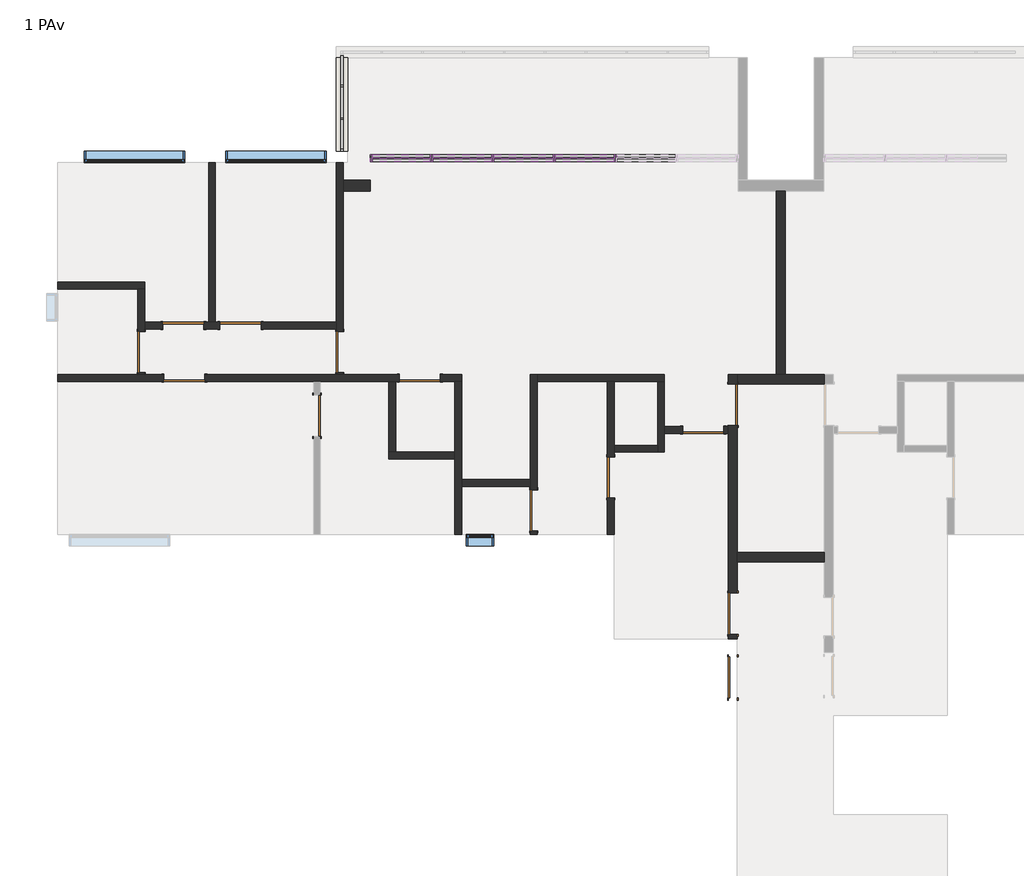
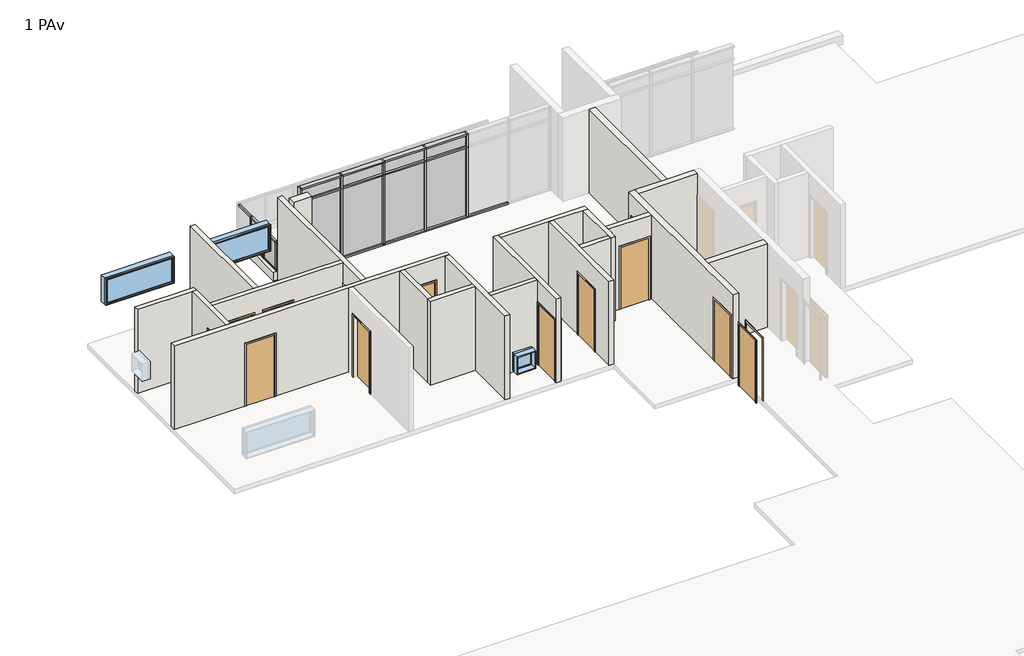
# One storey, part 4 of 6: 31 members, 22 walls, 13 doors, 10 plates, 3 windows.
"""IFC4 building model written with IfcOpenShell, lengths in millimetres."""

from ifc_helpers import new_model, si_unit, frame, origin, place, context, project, spatial, polyline, outline, extrude, faceted_brep, transform, mapped, element, save
from components import door_90_x_210_ee935524, door_90_x_210_565370b3, door_90_x_210_2c83007d, door_90_x_210_fbafd55c, montante_retangular_50_mm_quadrado_84e40a56, montante_retangular_50_mm_quadrado_3d152aff, montante_retangular_50_mm_quadrado_a01005a4, montante_retangular_50_mm_quadrado_ddd80bd7, montante_retangular_50_x_150_mm_6217edde, montante_retangular_50_x_150_mm_a22249d7, montante_retangular_50_x_150_mm_6225e4e3, montante_retangular_50_x_150_mm_0a8c3443, montante_retangular_50_x_150_mm_567eccab, montante_retangular_50_x_150_mm_1ca2bba2, montante_retangular_50_x_150_mm_6abf4531, montante_retangular_50_x_150_mm_662c37b1, painel_do_sistema_0196877a, painel_do_sistema_2aa81470, painel_do_sistema_1ecb5f42, painel_do_sistema_49db1829, painel_do_sistema_5ea5287b, painel_do_sistema_7730abee, window_0610_x_0610_mm_b5667cc9, window_220_x_90_84e01c73

model = new_model("IFC4")

# Units and contexts
model_context = context("Model", 3, world=origin())
ifc_project = project(units=[si_unit("LENGTHUNIT", "METRE", prefix="MILLI")], contexts=[model_context])

# Site, building, storey
site = spatial("IfcSite", under=ifc_project)
building = spatial("IfcBuilding", under=site)
storey = spatial("IfcBuildingStorey", under=building, Name="1 PAv", Elevation=3000.0)

# Doors
placement = place(None, origin())
door_90_x_210_shape = door_90_x_210_ee935524(model_context)
element("IfcDoor", 1, ObjectType="M_Descarga simples : 90 x 210", at=placement, inside=storey, context=model_context, shape_type="MappedRepresentation", body=[
    mapped(door_90_x_210_shape, transform((-14116.2265742, 10408.6614625, 3000.0), x_axis=(1.0, 0.0, 0.0), y_axis=(0.0, 1.0, 0.0), z_axis=(0.0, 0.0, 1.0))),
])
element("IfcDoor", 2, ObjectType="M_Descarga simples : 90 x 210", at=placement, inside=storey, context=model_context, shape_type="MappedRepresentation", body=[
    mapped(door_90_x_210_shape, transform((-14096.2265742, 9258.6614625, 3000.0), x_axis=(-1.0, 0.0, 0.0), y_axis=(0.0, -1.0, 0.0), z_axis=(0.0, 0.0, 1.0))),
])
element("IfcDoor", 3, ObjectType="M_Descarga simples : 90 x 210", at=placement, inside=storey, context=model_context, shape_type="MappedRepresentation", body=[
    mapped(door_90_x_210_shape, transform((-8936.2265742, 9258.6614625, 3000.0), x_axis=(-1.0, 0.0, 0.0), y_axis=(0.0, -1.0, 0.0), z_axis=(0.0, 0.0, 1.0))),
])
door_90_x_210_2_shape = door_90_x_210_565370b3(model_context)
element("IfcDoor", 4, ObjectType="M_Descarga simples : 90 x 210", at=placement, inside=storey, context=model_context, shape_type="MappedRepresentation", body=[
    mapped(door_90_x_210_2_shape, transform((-2726.2265742, 8118.6614625, 3000.0), x_axis=(1.0, 0.0, 0.0), y_axis=(0.0, 1.0, 0.0), z_axis=(0.0, 0.0, 1.0))),
])
element("IfcDoor", 5, ObjectType="M_Descarga simples : 90 x 210", at=placement, inside=storey, context=model_context, shape_type="MappedRepresentation", body=[
    mapped(door_90_x_210_2_shape, transform((-4751.2265742, 7083.6614625, 3000.0), x_axis=(0.0, -1.0, 0.0), y_axis=(1.0, 0.0, 0.0), z_axis=(0.0, 0.0, 1.0))),
])
element("IfcDoor", 6, ObjectType="M_Descarga simples : 90 x 210", at=placement, inside=storey, context=model_context, shape_type="MappedRepresentation", body=[
    mapped(door_90_x_210_2_shape, transform((-6441.2265742, 6358.6614625, 3000.0), x_axis=(0.0, -1.0, 0.0), y_axis=(1.0, 0.0, 0.0), z_axis=(0.0, 0.0, 1.0))),
])
element("IfcDoor", 7, ObjectType="M_Descarga simples : 90 x 210", at=placement, inside=storey, context=model_context, shape_type="MappedRepresentation", body=[
    mapped(door_90_x_210_2_shape, transform((-11191.2265742, 8433.6614625, 3000.0), x_axis=(0.0, 1.0, 0.0), y_axis=(-1.0, 0.0, 0.0), z_axis=(0.0, 0.0, 1.0))),
])
element("IfcDoor", 8, ObjectType="M_Descarga simples : 90 x 210", at=placement, inside=storey, context=model_context, shape_type="MappedRepresentation", body=[
    mapped(door_90_x_210_2_shape, transform((-10691.2265742, 9833.6614625, 3000.0), x_axis=(0.0, -1.0, 0.0), y_axis=(1.0, 0.0, 0.0), z_axis=(0.0, 0.0, 1.0))),
])
element("IfcDoor", 9, ObjectType="M_Descarga simples : 90 x 210", at=placement, inside=storey, context=model_context, shape_type="MappedRepresentation", body=[
    mapped(door_90_x_210_2_shape, transform((-15041.2265742, 9833.6614625, 3000.0), x_axis=(0.0, -1.0, 0.0), y_axis=(1.0, 0.0, 0.0), z_axis=(0.0, 0.0, 1.0))),
])
element("IfcDoor", 10, ObjectType="M_Descarga simples : 90 x 210", at=placement, inside=storey, context=model_context, shape_type="MappedRepresentation", body=[
    mapped(door_90_x_210_2_shape, transform((-12866.2265742, 10408.6614625, 3000.0), x_axis=(-1.0, 0.0, 0.0), y_axis=(0.0, -1.0, 0.0), z_axis=(0.0, 0.0, 1.0))),
])
door_90_x_210_3_shape = door_90_x_210_2c83007d(model_context)
element("IfcDoor", 11, ObjectType="M_Descarga simples : 90 x 210", at=placement, inside=storey, context=model_context, shape_type="MappedRepresentation", body=[
    mapped(door_90_x_210_3_shape, transform((-2076.2265742, 2693.6614625, 3000.0), x_axis=(0.0, 1.0, 0.0), y_axis=(-1.0, 0.0, 0.0), z_axis=(0.0, 0.0, 1.0))),
])
door_90_x_210_4_shape = door_90_x_210_fbafd55c(model_context)
element("IfcDoor", 12, ObjectType="M_Descarga simples : 90 x 210", at=placement, inside=storey, context=model_context, shape_type="MappedRepresentation", body=[
    mapped(door_90_x_210_4_shape, transform((-2076.2265742, 4093.6614625, 3000.0), x_axis=(0.0, -1.0, 0.0), y_axis=(1.0, 0.0, 0.0), z_axis=(0.0, 0.0, 1.0))),
])
element("IfcDoor", 13, ObjectType="M_Descarga simples : 90 x 210", at=placement, inside=storey, context=model_context, shape_type="MappedRepresentation", body=[
    mapped(door_90_x_210_4_shape, transform((-2076.2265742, 8673.2521762, 3000.0), x_axis=(0.0, 1.0, 0.0), y_axis=(-1.0, 0.0, 0.0), z_axis=(0.0, 0.0, 1.0))),
])

# Members
montante_retangular_50_mm_quadrado_shape = montante_retangular_50_mm_quadrado_84e40a56(model_context)
element("IfcMember", 14, ObjectType="Montante retangular : 50 mm Quadrado", at=placement, inside=storey, context=model_context, shape_type="MappedRepresentation", body=[
    mapped(montante_retangular_50_mm_quadrado_shape, transform((-10641.2265742, 15663.6614625, 3150.0), x_axis=(0.0, -1.0, 0.0), y_axis=(-1.0, 0.0, 0.0), z_axis=(0.0, 0.0, -1.0))),
])
element("IfcMember", 15, ObjectType="Montante retangular : 50 mm Quadrado", at=placement, inside=storey, context=model_context, shape_type="MappedRepresentation", body=[
    mapped(montante_retangular_50_mm_quadrado_shape, transform((-10641.2265742, 14948.6614625, 3150.0), x_axis=(0.0, -1.0, 0.0), y_axis=(-1.0, 0.0, 0.0), z_axis=(0.0, 0.0, -1.0))),
])
montante_retangular_50_mm_quadrado_2_shape = montante_retangular_50_mm_quadrado_3d152aff(model_context)
element("IfcMember", 16, ObjectType="Montante retangular : 50 mm Quadrado", at=placement, inside=storey, context=model_context, shape_type="MappedRepresentation", body=[
    mapped(montante_retangular_50_mm_quadrado_2_shape, transform((-10641.2265742, 14233.6614625, 3150.0), x_axis=(0.0, -1.0, 0.0), y_axis=(-1.0, 0.0, 0.0), z_axis=(0.0, 0.0, -1.0))),
])
montante_retangular_50_mm_quadrado_3_shape = montante_retangular_50_mm_quadrado_a01005a4(model_context)
element("IfcMember", 17, ObjectType="Montante retangular : 50 mm Quadrado", at=placement, inside=storey, context=model_context, shape_type="MappedRepresentation", body=[
    mapped(montante_retangular_50_mm_quadrado_3_shape, transform((-10641.2265742, 14283.6614625, 4150.0), x_axis=(0.0, 0.0, 1.0), y_axis=(-1.0, 0.0, 0.0), z_axis=(0.0, -1.0, 0.0))),
])
element("IfcMember", 18, ObjectType="Montante retangular : 50 mm Quadrado", at=placement, inside=storey, context=model_context, shape_type="MappedRepresentation", body=[
    mapped(montante_retangular_50_mm_quadrado_3_shape, transform((-10641.2265742, 15688.6614625, 4150.0), x_axis=(0.0, 0.0, 1.0), y_axis=(-1.0, 0.0, 0.0), z_axis=(0.0, -1.0, 0.0))),
])
montante_retangular_50_mm_quadrado_4_shape = montante_retangular_50_mm_quadrado_ddd80bd7(model_context)
element("IfcMember", 19, ObjectType="Montante retangular : 50 mm Quadrado", at=placement, inside=storey, context=model_context, shape_type="MappedRepresentation", body=[
    mapped(montante_retangular_50_mm_quadrado_4_shape, transform((-10641.2265742, 14973.6614625, 4150.0), x_axis=(0.0, 0.0, 1.0), y_axis=(-1.0, 0.0, 0.0), z_axis=(0.0, -1.0, 0.0))),
])
element("IfcMember", 20, ObjectType="Montante retangular : 50 mm Quadrado", at=placement, inside=storey, context=model_context, shape_type="MappedRepresentation", body=[
    mapped(montante_retangular_50_mm_quadrado_3_shape, transform((-10641.2265742, 14923.6614625, 3150.0), x_axis=(0.0, 0.0, -1.0), y_axis=(-1.0, 0.0, 0.0), z_axis=(0.0, 1.0, 0.0))),
])
element("IfcMember", 21, ObjectType="Montante retangular : 50 mm Quadrado", at=placement, inside=storey, context=model_context, shape_type="MappedRepresentation", body=[
    mapped(montante_retangular_50_mm_quadrado_4_shape, transform((-10641.2265742, 15638.6614625, 3150.0), x_axis=(0.0, 0.0, -1.0), y_axis=(-1.0, 0.0, 0.0), z_axis=(0.0, 1.0, 0.0))),
])
montante_retangular_50_x_150_mm_shape = montante_retangular_50_x_150_mm_6217edde(model_context)
element("IfcMember", 22, ObjectType="Montante retangular : 50 x 150 mm", at=placement, inside=storey, context=model_context, shape_type="MappedRepresentation", body=[
    mapped(montante_retangular_50_x_150_mm_shape, transform((-8707.0599075, 14083.6614625, 5850.0), x_axis=(0.0, 0.0, 1.0), y_axis=(0.0, -1.0, 0.0), z_axis=(1.0, 0.0, 0.0))),
])
montante_retangular_50_x_150_mm_2_shape = montante_retangular_50_x_150_mm_a22249d7(model_context)
element("IfcMember", 23, ObjectType="Montante retangular : 50 x 150 mm", at=placement, inside=storey, context=model_context, shape_type="MappedRepresentation", body=[
    mapped(montante_retangular_50_x_150_mm_2_shape, transform((-7362.8932408, 14083.6614625, 5850.0), x_axis=(0.0, 0.0, 1.0), y_axis=(0.0, -1.0, 0.0), z_axis=(1.0, 0.0, 0.0))),
])
element("IfcMember", 24, ObjectType="Montante retangular : 50 x 150 mm", at=placement, inside=storey, context=model_context, shape_type="MappedRepresentation", body=[
    mapped(montante_retangular_50_x_150_mm_2_shape, transform((-6018.7265742, 14083.6614625, 5850.0), x_axis=(0.0, 0.0, 1.0), y_axis=(0.0, -1.0, 0.0), z_axis=(1.0, 0.0, 0.0))),
])
element("IfcMember", 25, ObjectType="Montante retangular : 50 x 150 mm", at=placement, inside=storey, context=model_context, shape_type="MappedRepresentation", body=[
    mapped(montante_retangular_50_x_150_mm_2_shape, transform((-4674.5599075, 14083.6614625, 5850.0), x_axis=(0.0, 0.0, 1.0), y_axis=(0.0, -1.0, 0.0), z_axis=(1.0, 0.0, 0.0))),
])
element("IfcMember", 26, ObjectType="Montante retangular : 50 x 150 mm", at=placement, inside=storey, context=model_context, shape_type="MappedRepresentation", body=[
    mapped(montante_retangular_50_x_150_mm_shape, transform((-9976.2265742, 14083.6614625, 3000.0), x_axis=(0.0, 0.0, -1.0), y_axis=(0.0, -1.0, 0.0), z_axis=(-1.0, 0.0, 0.0))),
])
element("IfcMember", 27, ObjectType="Montante retangular : 50 x 150 mm", at=placement, inside=storey, context=model_context, shape_type="MappedRepresentation", body=[
    mapped(montante_retangular_50_x_150_mm_2_shape, transform((-8657.0599075, 14083.6614625, 3000.0), x_axis=(0.0, 0.0, -1.0), y_axis=(0.0, -1.0, 0.0), z_axis=(-1.0, 0.0, 0.0))),
])
element("IfcMember", 28, ObjectType="Montante retangular : 50 x 150 mm", at=placement, inside=storey, context=model_context, shape_type="MappedRepresentation", body=[
    mapped(montante_retangular_50_x_150_mm_2_shape, transform((-7312.8932408, 14083.6614625, 3000.0), x_axis=(0.0, 0.0, -1.0), y_axis=(0.0, -1.0, 0.0), z_axis=(-1.0, 0.0, 0.0))),
])
element("IfcMember", 29, ObjectType="Montante retangular : 50 x 150 mm", at=placement, inside=storey, context=model_context, shape_type="MappedRepresentation", body=[
    mapped(montante_retangular_50_x_150_mm_2_shape, transform((-5968.7265742, 14083.6614625, 3000.0), x_axis=(0.0, 0.0, -1.0), y_axis=(0.0, -1.0, 0.0), z_axis=(-1.0, 0.0, 0.0))),
])
element("IfcMember", 30, ObjectType="Montante retangular : 50 x 150 mm", at=placement, inside=storey, context=model_context, shape_type="MappedRepresentation", body=[
    mapped(montante_retangular_50_x_150_mm_2_shape, transform((-4624.5599075, 14083.6614625, 3000.0), x_axis=(0.0, 0.0, -1.0), y_axis=(0.0, -1.0, 0.0), z_axis=(-1.0, 0.0, 0.0))),
])
montante_retangular_50_x_150_mm_3_shape = montante_retangular_50_x_150_mm_6225e4e3(model_context)
element("IfcMember", 31, ObjectType="Montante retangular : 50 x 150 mm", at=placement, inside=storey, context=model_context, shape_type="MappedRepresentation", body=[
    mapped(montante_retangular_50_x_150_mm_3_shape, transform((-8682.0599075, 14083.6614625, 3000.0), x_axis=(1.0, 0.0, 0.0), y_axis=(0.0, -1.0, 0.0), z_axis=(0.0, 0.0, -1.0))),
])
element("IfcMember", 32, ObjectType="Montante retangular : 50 x 150 mm", at=placement, inside=storey, context=model_context, shape_type="MappedRepresentation", body=[
    mapped(montante_retangular_50_x_150_mm_3_shape, transform((-7337.8932408, 14083.6614625, 3000.0), x_axis=(1.0, 0.0, 0.0), y_axis=(0.0, -1.0, 0.0), z_axis=(0.0, 0.0, -1.0))),
])
element("IfcMember", 33, ObjectType="Montante retangular : 50 x 150 mm", at=placement, inside=storey, context=model_context, shape_type="MappedRepresentation", body=[
    mapped(montante_retangular_50_x_150_mm_3_shape, transform((-5993.7265742, 14083.6614625, 3000.0), x_axis=(1.0, 0.0, 0.0), y_axis=(0.0, -1.0, 0.0), z_axis=(0.0, 0.0, -1.0))),
])
element("IfcMember", 34, ObjectType="Montante retangular : 50 x 150 mm", at=placement, inside=storey, context=model_context, shape_type="MappedRepresentation", body=[
    mapped(montante_retangular_50_x_150_mm_3_shape, transform((-4649.5599075, 14083.6614625, 3000.0), x_axis=(1.0, 0.0, 0.0), y_axis=(0.0, -1.0, 0.0), z_axis=(0.0, 0.0, -1.0))),
])
montante_retangular_50_x_150_mm_4_shape = montante_retangular_50_x_150_mm_0a8c3443(model_context)
element("IfcMember", 35, ObjectType="Montante retangular : 50 x 150 mm", at=placement, inside=storey, context=model_context, shape_type="MappedRepresentation", body=[
    mapped(montante_retangular_50_x_150_mm_4_shape, transform((-10026.2265742, 14083.6614625, 5850.0), x_axis=(-1.0, 0.0, 0.0), y_axis=(0.0, -1.0, 0.0), z_axis=(0.0, 0.0, 1.0))),
])
montante_retangular_50_x_150_mm_5_shape = montante_retangular_50_x_150_mm_567eccab(model_context)
element("IfcMember", 36, ObjectType="Montante retangular : 50 x 150 mm", at=placement, inside=storey, context=model_context, shape_type="MappedRepresentation", body=[
    mapped(montante_retangular_50_x_150_mm_5_shape, transform((-8682.0599075, 14083.6614625, 5400.0), x_axis=(1.0, 0.0, 0.0), y_axis=(0.0, -1.0, 0.0), z_axis=(0.0, 0.0, -1.0))),
])
element("IfcMember", 37, ObjectType="Montante retangular : 50 x 150 mm", at=placement, inside=storey, context=model_context, shape_type="MappedRepresentation", body=[
    mapped(montante_retangular_50_x_150_mm_5_shape, transform((-7337.8932408, 14083.6614625, 5400.0), x_axis=(1.0, 0.0, 0.0), y_axis=(0.0, -1.0, 0.0), z_axis=(0.0, 0.0, -1.0))),
])
element("IfcMember", 38, ObjectType="Montante retangular : 50 x 150 mm", at=placement, inside=storey, context=model_context, shape_type="MappedRepresentation", body=[
    mapped(montante_retangular_50_x_150_mm_5_shape, transform((-5993.7265742, 14083.6614625, 5400.0), x_axis=(1.0, 0.0, 0.0), y_axis=(0.0, -1.0, 0.0), z_axis=(0.0, 0.0, -1.0))),
])
element("IfcMember", 39, ObjectType="Montante retangular : 50 x 150 mm", at=placement, inside=storey, context=model_context, shape_type="MappedRepresentation", body=[
    mapped(montante_retangular_50_x_150_mm_5_shape, transform((-4649.5599075, 14083.6614625, 5400.0), x_axis=(1.0, 0.0, 0.0), y_axis=(0.0, -1.0, 0.0), z_axis=(0.0, 0.0, -1.0))),
])
montante_retangular_50_x_150_mm_6_shape = montante_retangular_50_x_150_mm_1ca2bba2(model_context)
element("IfcMember", 40, ObjectType="Montante retangular : 50 x 150 mm", at=placement, inside=storey, context=model_context, shape_type="MappedRepresentation", body=[
    mapped(montante_retangular_50_x_150_mm_6_shape, transform((-8707.0599075, 14083.6614625, 5400.0), x_axis=(0.0, 0.0, 1.0), y_axis=(0.0, -1.0, 0.0), z_axis=(1.0, 0.0, 0.0))),
])
montante_retangular_50_x_150_mm_7_shape = montante_retangular_50_x_150_mm_6abf4531(model_context)
element("IfcMember", 41, ObjectType="Montante retangular : 50 x 150 mm", at=placement, inside=storey, context=model_context, shape_type="MappedRepresentation", body=[
    mapped(montante_retangular_50_x_150_mm_7_shape, transform((-7362.8932408, 14083.6614625, 5400.0), x_axis=(0.0, 0.0, 1.0), y_axis=(0.0, -1.0, 0.0), z_axis=(1.0, 0.0, 0.0))),
])
element("IfcMember", 42, ObjectType="Montante retangular : 50 x 150 mm", at=placement, inside=storey, context=model_context, shape_type="MappedRepresentation", body=[
    mapped(montante_retangular_50_x_150_mm_7_shape, transform((-6018.7265742, 14083.6614625, 5400.0), x_axis=(0.0, 0.0, 1.0), y_axis=(0.0, -1.0, 0.0), z_axis=(1.0, 0.0, 0.0))),
])
element("IfcMember", 43, ObjectType="Montante retangular : 50 x 150 mm", at=placement, inside=storey, context=model_context, shape_type="MappedRepresentation", body=[
    mapped(montante_retangular_50_x_150_mm_7_shape, transform((-4674.5599075, 14083.6614625, 5400.0), x_axis=(0.0, 0.0, 1.0), y_axis=(0.0, -1.0, 0.0), z_axis=(1.0, 0.0, 0.0))),
])
montante_retangular_50_x_150_mm_8_shape = montante_retangular_50_x_150_mm_662c37b1(model_context)
element("IfcMember", 44, ObjectType="Montante retangular : 50 x 150 mm", at=placement, inside=storey, context=model_context, shape_type="MappedRepresentation", body=[
    mapped(montante_retangular_50_x_150_mm_8_shape, transform((-10026.2265742, 14083.6614625, 5400.0), x_axis=(-1.0, 0.0, 0.0), y_axis=(0.0, -1.0, 0.0), z_axis=(0.0, 0.0, 1.0))),
])

# Plates
painel_do_sistema_shape = painel_do_sistema_0196877a(model_context)
element("IfcPlate", 45, ObjectType="Painel do sistema : Envidraçado", at=placement, inside=storey, context=model_context, shape_type="MappedRepresentation", body=[
    mapped(painel_do_sistema_shape, transform((-10641.2265742, 14603.6614625, 3200.0), x_axis=(0.0, -1.0, 0.0), y_axis=(1.0, 0.0, 0.0), z_axis=(0.0, 0.0, 1.0))),
])
painel_do_sistema_2_shape = painel_do_sistema_2aa81470(model_context)
element("IfcPlate", 46, ObjectType="Painel do sistema : Envidraçado", at=placement, inside=storey, context=model_context, shape_type="MappedRepresentation", body=[
    mapped(painel_do_sistema_2_shape, transform((-10641.2265742, 15306.1614625, 3200.0), x_axis=(0.0, -1.0, 0.0), y_axis=(1.0, 0.0, 0.0), z_axis=(0.0, 0.0, 1.0))),
])
painel_do_sistema_3_shape = painel_do_sistema_1ecb5f42(model_context)
element("IfcPlate", 47, ObjectType="Painel do sistema : Envidraçado", at=placement, inside=storey, context=model_context, shape_type="MappedRepresentation", body=[
    mapped(painel_do_sistema_3_shape, transform((-9341.6432408, 14083.6614625, 3050.0), x_axis=(1.0, 0.0, 0.0), y_axis=(0.0, 1.0, 0.0), z_axis=(0.0, 0.0, 1.0))),
])
painel_do_sistema_4_shape = painel_do_sistema_49db1829(model_context)
element("IfcPlate", 48, ObjectType="Painel do sistema : Envidraçado", at=placement, inside=storey, context=model_context, shape_type="MappedRepresentation", body=[
    mapped(painel_do_sistema_4_shape, transform((-8009.9765742, 14083.6614625, 3050.0), x_axis=(1.0, 0.0, 0.0), y_axis=(0.0, 1.0, 0.0), z_axis=(0.0, 0.0, 1.0))),
])
element("IfcPlate", 49, ObjectType="Painel do sistema : Envidraçado", at=placement, inside=storey, context=model_context, shape_type="MappedRepresentation", body=[
    mapped(painel_do_sistema_4_shape, transform((-6665.8099075, 14083.6614625, 3050.0), x_axis=(1.0, 0.0, 0.0), y_axis=(0.0, 1.0, 0.0), z_axis=(0.0, 0.0, 1.0))),
])
element("IfcPlate", 50, ObjectType="Painel do sistema : Envidraçado", at=placement, inside=storey, context=model_context, shape_type="MappedRepresentation", body=[
    mapped(painel_do_sistema_4_shape, transform((-5321.6432408, 14083.6614625, 3050.0), x_axis=(1.0, 0.0, 0.0), y_axis=(0.0, 1.0, 0.0), z_axis=(0.0, 0.0, 1.0))),
])
painel_do_sistema_5_shape = painel_do_sistema_5ea5287b(model_context)
element("IfcPlate", 51, ObjectType="Painel do sistema : Envidraçado", at=placement, inside=storey, context=model_context, shape_type="MappedRepresentation", body=[
    mapped(painel_do_sistema_5_shape, transform((-9341.6432408, 14083.6614625, 5425.0), x_axis=(1.0, 0.0, 0.0), y_axis=(0.0, 1.0, 0.0), z_axis=(0.0, 0.0, 1.0))),
])
painel_do_sistema_6_shape = painel_do_sistema_7730abee(model_context)
element("IfcPlate", 52, ObjectType="Painel do sistema : Envidraçado", at=placement, inside=storey, context=model_context, shape_type="MappedRepresentation", body=[
    mapped(painel_do_sistema_6_shape, transform((-8009.9765742, 14083.6614625, 5425.0), x_axis=(1.0, 0.0, 0.0), y_axis=(0.0, 1.0, 0.0), z_axis=(0.0, 0.0, 1.0))),
])
element("IfcPlate", 53, ObjectType="Painel do sistema : Envidraçado", at=placement, inside=storey, context=model_context, shape_type="MappedRepresentation", body=[
    mapped(painel_do_sistema_6_shape, transform((-6665.8099075, 14083.6614625, 5425.0), x_axis=(1.0, 0.0, 0.0), y_axis=(0.0, 1.0, 0.0), z_axis=(0.0, 0.0, 1.0))),
])
element("IfcPlate", 54, ObjectType="Painel do sistema : Envidraçado", at=placement, inside=storey, context=model_context, shape_type="MappedRepresentation", body=[
    mapped(painel_do_sistema_6_shape, transform((-5321.6432408, 14083.6614625, 5425.0), x_axis=(1.0, 0.0, 0.0), y_axis=(0.0, 1.0, 0.0), z_axis=(0.0, 0.0, 1.0))),
])

# Walls
element("IfcWall", 55, ObjectType="Exeterna 25", at=placement, inside=storey, context=model_context, shape_type="Brep", body=[
    faceted_brep([(-10766.2265742, 16278.6614625, 2850.0), (-10766.2265742, 14233.6614625, 2850.0), (-10766.2265742, 14233.6614625, 3150.0), (-10766.2265742, 16278.6614625, 3150.0), (-10516.2265742, 14233.6614625, 2850.0), (-10516.2265742, 16278.6614625, 2850.0), (-10516.2265742, 16278.6614625, 3000.0), (-10516.2265742, 16278.6614625, 3150.0), (-10516.2265742, 14233.6614625, 3150.0), (-10516.2265742, 14233.6614625, 3000.0)], [[[0, 1, 2, 3]], [[4, 5, 6, 7, 8, 9]], [[1, 0, 5, 4]], [[3, 2, 8, 7]], [[0, 3, 7, 6, 5]], [[2, 1, 4, 9, 8]]]),
])
element("IfcWall", 56, ObjectType="Exeterna 25", at=placement, inside=storey, context=model_context, shape_type="SweptSolid", body=[
    extrude(outline(polyline([(-10616.2265742, 13603.6614625), (-10026.2265742, 13603.6614625), (-10026.2265742, 13353.6614625), (-10616.2265742, 13353.6614625), (-10616.2265742, 13603.6614625)])), frame((0.0, 0.0, 3000.0), z_axis=(0.0, 0.0, 1.0), x_axis=(1.0, 0.0, 0.0)), (0.0, 0.0, 1.0), 3000.0),
])
element("IfcWall", 57, ObjectType="Estrutura 20", at=placement, inside=storey, context=model_context, shape_type="SweptSolid", body=[
    extrude(outline(polyline([(-76.2265742, 5233.6614625), (-1976.2265742, 5233.6614625), (-1976.2265742, 5433.6614625), (-76.2265742, 5433.6614625), (-76.2265742, 5233.6614625)])), frame((0.0, 0.0, 3000.0), z_axis=(0.0, 0.0, 1.0), x_axis=(1.0, 0.0, 0.0)), (0.0, 0.0, 1.0), 2850.0),
])
element("IfcWall", 58, ObjectType="Interna 15", at=placement, inside=storey, context=model_context, shape_type="Brep", body=[
    faceted_brep([(-10766.2265742, 9383.6614625, 5100.0), (-10766.2265742, 9383.6614625, 3000.0), (-10766.2265742, 9333.6614625, 3000.0), (-10766.2265742, 9333.6614625, 5850.0), (-10766.2265742, 10333.6614625, 5850.0), (-10766.2265742, 10483.6614625, 5850.0), (-10766.2265742, 13983.6614625, 5850.0), (-10766.2265742, 13983.6614625, 3000.0), (-10766.2265742, 10483.6614625, 3000.0), (-10766.2265742, 10333.6614625, 3000.0), (-10766.2265742, 10283.6614625, 3000.0), (-10766.2265742, 10283.6614625, 5100.0), (-10616.2265742, 9333.6614625, 3000.0), (-10616.2265742, 9383.6614625, 3000.0), (-10616.2265742, 9383.6614625, 5100.0), (-10616.2265742, 10283.6614625, 5100.0), (-10616.2265742, 10283.6614625, 3000.0), (-10616.2265742, 13353.6614625, 3000.0), (-10616.2265742, 13603.6614625, 3000.0), (-10616.2265742, 13983.6614625, 3000.0), (-10616.2265742, 13983.6614625, 5850.0), (-10616.2265742, 9333.6614625, 5850.0)], [[[0, 1, 2, 3, 4, 5, 6, 7, 8, 9, 10, 11]], [[12, 13, 14, 15, 16, 17, 18, 19, 20, 21]], [[2, 1, 13, 12]], [[10, 9, 8, 7, 19, 18, 17, 16]], [[6, 5, 4, 3, 21, 20]], [[3, 2, 12, 21]], [[7, 6, 20, 19]], [[14, 13, 1, 0]], [[15, 14, 0, 11]], [[16, 15, 11, 10]]]),
])
element("IfcWall", 59, ObjectType="Interna 15", at=placement, inside=storey, context=model_context, shape_type="Brep", body=[
    faceted_brep([(-13316.2265742, 10483.6614625, 3000.0), (-13416.2265742, 10483.6614625, 3000.0), (-13566.2265742, 10483.6614625, 3000.0), (-13666.2265742, 10483.6614625, 3000.0), (-13666.2265742, 10483.6614625, 5100.0), (-14566.2265742, 10483.6614625, 5100.0), (-14566.2265742, 10483.6614625, 3000.0), (-14966.2265742, 10483.6614625, 3000.0), (-14966.2265742, 10483.6614625, 5850.0), (-13566.2265742, 10483.6614625, 5850.0), (-13416.2265742, 10483.6614625, 5850.0), (-10766.2265742, 10483.6614625, 5850.0), (-10766.2265742, 10483.6614625, 3000.0), (-12416.2265742, 10483.6614625, 3000.0), (-12416.2265742, 10483.6614625, 5100.0), (-13316.2265742, 10483.6614625, 5100.0), (-13666.2265742, 10333.6614625, 5100.0), (-13666.2265742, 10333.6614625, 3000.0), (-13316.2265742, 10333.6614625, 3000.0), (-13316.2265742, 10333.6614625, 5100.0), (-12416.2265742, 10333.6614625, 5100.0), (-12416.2265742, 10333.6614625, 3000.0), (-10766.2265742, 10333.6614625, 3000.0), (-10766.2265742, 10333.6614625, 5850.0), (-14966.2265742, 10333.6614625, 5850.0), (-14966.2265742, 10333.6614625, 3000.0), (-14566.2265742, 10333.6614625, 3000.0), (-14566.2265742, 10333.6614625, 5100.0)], [[[0, 1, 2, 3, 4, 5, 6, 7, 8, 9, 10, 11, 12, 13, 14, 15]], [[16, 17, 18, 19, 20, 21, 22, 23, 24, 25, 26, 27]], [[13, 12, 22, 21]], [[26, 25, 7, 6]], [[18, 17, 3, 2, 1, 0]], [[11, 10, 9, 8, 24, 23]], [[12, 11, 23, 22]], [[8, 7, 25, 24]], [[4, 3, 17, 16]], [[5, 4, 16, 27]], [[6, 5, 27, 26]], [[19, 18, 0, 15]], [[20, 19, 15, 14]], [[21, 20, 14, 13]]]),
])
element("IfcWall", 60, ObjectType="Interna 15", at=placement, inside=storey, context=model_context, shape_type="SweptSolid", body=[
    extrude(outline(polyline([(-13416.2265742, 13983.6614625), (-13416.2265742, 10483.6614625), (-13566.2265742, 10483.6614625), (-13566.2265742, 13983.6614625), (-13416.2265742, 13983.6614625)])), frame((0.0, 0.0, 3000.0), z_axis=(0.0, 0.0, 1.0), x_axis=(1.0, 0.0, 0.0)), (0.0, 0.0, 1.0), 2850.0),
])
element("IfcWall", 61, ObjectType="Interna 15", at=placement, inside=storey, context=model_context, shape_type="Brep", body=[
    faceted_brep([(-16866.2265742, 11213.6614625, 3000.0), (-15116.2265742, 11213.6614625, 3000.0), (-14966.2265742, 11213.6614625, 3000.0), (-14966.2265742, 11213.6614625, 5850.0), (-15116.2265742, 11213.6614625, 5850.0), (-16866.2265742, 11213.6614625, 5850.0), (-16866.2265742, 11363.6614625, 3000.0), (-16866.2265742, 11363.6614625, 5850.0), (-14966.2265742, 11363.6614625, 5850.0), (-14966.2265742, 11363.6614625, 3000.0)], [[[0, 1, 2, 3, 4, 5]], [[6, 7, 8, 9]], [[2, 1, 0, 6, 9]], [[5, 4, 3, 8, 7]], [[0, 5, 7, 6]], [[3, 2, 9, 8]]]),
])
element("IfcWall", 62, ObjectType="Interna 15", at=placement, inside=storey, context=model_context, shape_type="Brep", body=[
    faceted_brep([(-15116.2265742, 9383.6614625, 5100.0), (-15116.2265742, 9383.6614625, 3000.0), (-15116.2265742, 9333.6614625, 3000.0), (-15116.2265742, 9333.6614625, 5850.0), (-15116.2265742, 11213.6614625, 5850.0), (-15116.2265742, 11213.6614625, 3000.0), (-15116.2265742, 10283.6614625, 3000.0), (-15116.2265742, 10283.6614625, 5100.0), (-14966.2265742, 9333.6614625, 3000.0), (-14966.2265742, 9383.6614625, 3000.0), (-14966.2265742, 9383.6614625, 5100.0), (-14966.2265742, 10283.6614625, 5100.0), (-14966.2265742, 10283.6614625, 3000.0), (-14966.2265742, 10333.6614625, 3000.0), (-14966.2265742, 10483.6614625, 3000.0), (-14966.2265742, 11213.6614625, 3000.0), (-14966.2265742, 11213.6614625, 5850.0), (-14966.2265742, 10483.6614625, 5850.0), (-14966.2265742, 10333.6614625, 5850.0), (-14966.2265742, 9333.6614625, 5850.0)], [[[0, 1, 2, 3, 4, 5, 6, 7]], [[8, 9, 10, 11, 12, 13, 14, 15, 16, 17, 18, 19]], [[6, 5, 15, 14, 13, 12]], [[2, 1, 9, 8]], [[4, 3, 19, 18, 17, 16]], [[3, 2, 8, 19]], [[5, 4, 16, 15]], [[10, 9, 1, 0]], [[11, 10, 0, 7]], [[12, 11, 7, 6]]]),
])
element("IfcWall", 63, ObjectType="Interna 15", at=placement, inside=storey, context=model_context, shape_type="Brep", body=[
    faceted_brep([(-13646.2265742, 9183.6614625, 3000.0), (-11266.2265742, 9183.6614625, 3000.0), (-11116.2265742, 9183.6614625, 3000.0), (-9616.2265742, 9183.6614625, 3000.0), (-9466.2265742, 9183.6614625, 3000.0), (-9386.2265742, 9183.6614625, 3000.0), (-9386.2265742, 9183.6614625, 5100.0), (-8486.2265742, 9183.6614625, 5100.0), (-8486.2265742, 9183.6614625, 3000.0), (-8166.2265742, 9183.6614625, 3000.0), (-8016.2265742, 9183.6614625, 3000.0), (-8016.2265742, 9183.6614625, 5850.0), (-8166.2265742, 9183.6614625, 5850.0), (-9466.2265742, 9183.6614625, 5850.0), (-9616.2265742, 9183.6614625, 5850.0), (-11116.2265742, 9183.6614625, 5850.0), (-11266.2265742, 9183.6614625, 5850.0), (-16866.2265742, 9183.6614625, 5850.0), (-16866.2265742, 9183.6614625, 3000.0), (-14546.2265742, 9183.6614625, 3000.0), (-14546.2265742, 9183.6614625, 5100.0), (-13646.2265742, 9183.6614625, 5100.0), (-9386.2265742, 9333.6614625, 5100.0), (-9386.2265742, 9333.6614625, 3000.0), (-10616.2265742, 9333.6614625, 3000.0), (-10766.2265742, 9333.6614625, 3000.0), (-13646.2265742, 9333.6614625, 3000.0), (-13646.2265742, 9333.6614625, 5100.0), (-14546.2265742, 9333.6614625, 5100.0), (-14546.2265742, 9333.6614625, 3000.0), (-14966.2265742, 9333.6614625, 3000.0), (-15116.2265742, 9333.6614625, 3000.0), (-16866.2265742, 9333.6614625, 3000.0), (-16866.2265742, 9333.6614625, 5850.0), (-15116.2265742, 9333.6614625, 5850.0), (-14966.2265742, 9333.6614625, 5850.0), (-10766.2265742, 9333.6614625, 5850.0), (-10616.2265742, 9333.6614625, 5850.0), (-8016.2265742, 9333.6614625, 5850.0), (-8016.2265742, 9333.6614625, 3000.0), (-8486.2265742, 9333.6614625, 3000.0), (-8486.2265742, 9333.6614625, 5100.0)], [[[0, 1, 2, 3, 4, 5, 6, 7, 8, 9, 10, 11, 12, 13, 14, 15, 16, 17, 18, 19, 20, 21]], [[22, 23, 24, 25, 26, 27, 28, 29, 30, 31, 32, 33, 34, 35, 36, 37, 38, 39, 40, 41]], [[40, 39, 10, 9, 8]], [[26, 25, 24, 23, 5, 4, 3, 2, 1, 0]], [[32, 31, 30, 29, 19, 18]], [[17, 16, 15, 14, 13, 12, 11, 38, 37, 36, 35, 34, 33]], [[18, 17, 33, 32]], [[11, 10, 39, 38]], [[6, 5, 23, 22]], [[7, 6, 22, 41]], [[8, 7, 41, 40]], [[20, 19, 29, 28]], [[21, 20, 28, 27]], [[0, 21, 27, 26]]]),
])
element("IfcWall", 64, ObjectType="Interna 15", at=placement, inside=storey, context=model_context, shape_type="Brep", body=[
    faceted_brep([(-8166.2265742, 9183.6614625, 3000.0), (-8166.2265742, 7633.6614625, 3000.0), (-8166.2265742, 7483.6614625, 3000.0), (-8166.2265742, 5833.6614625, 3000.0), (-8166.2265742, 5833.6614625, 5850.0), (-8166.2265742, 7483.6614625, 5850.0), (-8166.2265742, 7633.6614625, 5850.0), (-8166.2265742, 9183.6614625, 5850.0), (-8016.2265742, 9183.6614625, 3000.0), (-8016.2265742, 9183.6614625, 5850.0), (-8016.2265742, 7033.6614625, 5850.0), (-8016.2265742, 6883.6614625, 5850.0), (-8016.2265742, 5833.6614625, 5850.0), (-8016.2265742, 5833.6614625, 3000.0), (-8016.2265742, 6883.6614625, 3000.0), (-8016.2265742, 7033.6614625, 3000.0)], [[[0, 1, 2, 3, 4, 5, 6, 7]], [[8, 9, 10, 11, 12, 13, 14, 15]], [[3, 2, 1, 0, 8, 15, 14, 13]], [[7, 6, 5, 4, 12, 11, 10, 9]], [[0, 7, 9, 8]], [[4, 3, 13, 12]]]),
])
element("IfcWall", 65, ObjectType="Interna 15", at=placement, inside=storey, context=model_context, shape_type="Brep", body=[
    faceted_brep([(-8166.2265742, 7633.6614625, 3000.0), (-9466.2265742, 7633.6614625, 3000.0), (-9616.2265742, 7633.6614625, 3000.0), (-9616.2265742, 7633.6614625, 5850.0), (-9466.2265742, 7633.6614625, 5850.0), (-8166.2265742, 7633.6614625, 5850.0), (-8166.2265742, 7483.6614625, 3000.0), (-8166.2265742, 7483.6614625, 5850.0), (-9616.2265742, 7483.6614625, 5850.0), (-9616.2265742, 7483.6614625, 3000.0)], [[[0, 1, 2, 3, 4, 5]], [[6, 7, 8, 9]], [[2, 1, 0, 6, 9]], [[5, 4, 3, 8, 7]], [[0, 5, 7, 6]], [[3, 2, 9, 8]]]),
])
element("IfcWall", 66, ObjectType="Interna 15", at=placement, inside=storey, context=model_context, shape_type="SweptSolid", body=[
    extrude(outline(polyline([(-9466.2265742, 9183.6614625), (-9466.2265742, 7633.6614625), (-9616.2265742, 7633.6614625), (-9616.2265742, 9183.6614625), (-9466.2265742, 9183.6614625)])), frame((0.0, 0.0, 3000.0), z_axis=(0.0, 0.0, 1.0), x_axis=(1.0, 0.0, 0.0)), (0.0, 0.0, 1.0), 2850.0),
])
element("IfcWall", 67, ObjectType="Interna 15", at=placement, inside=storey, context=model_context, shape_type="SweptSolid", body=[
    extrude(outline(polyline([(-6516.2265742, 6883.6614625), (-8016.2265742, 6883.6614625), (-8016.2265742, 7033.6614625), (-6516.2265742, 7033.6614625), (-6516.2265742, 6883.6614625)])), frame((0.0, 0.0, 3000.0), z_axis=(0.0, 0.0, 1.0), x_axis=(1.0, 0.0, 0.0)), (0.0, 0.0, 1.0), 2850.0),
])
element("IfcWall", 68, ObjectType="Interna 15", at=placement, inside=storey, context=model_context, shape_type="Brep", body=[
    faceted_brep([(-6366.2265742, 5833.6614625, 3000.0), (-6366.2265742, 5908.6614625, 3000.0), (-6366.2265742, 5908.6614625, 5100.0), (-6366.2265742, 6808.6614625, 5100.0), (-6366.2265742, 6808.6614625, 3000.0), (-6366.2265742, 9183.6614625, 3000.0), (-6366.2265742, 9333.6614625, 3000.0), (-6366.2265742, 9333.6614625, 5850.0), (-6366.2265742, 9183.6614625, 5850.0), (-6366.2265742, 5833.6614625, 5850.0), (-6516.2265742, 5908.6614625, 5100.0), (-6516.2265742, 5908.6614625, 3000.0), (-6516.2265742, 5833.6614625, 3000.0), (-6516.2265742, 5833.6614625, 5850.0), (-6516.2265742, 6883.6614625, 5850.0), (-6516.2265742, 7033.6614625, 5850.0), (-6516.2265742, 9333.6614625, 5850.0), (-6516.2265742, 9333.6614625, 3000.0), (-6516.2265742, 7033.6614625, 3000.0), (-6516.2265742, 6883.6614625, 3000.0), (-6516.2265742, 6808.6614625, 3000.0), (-6516.2265742, 6808.6614625, 5100.0)], [[[0, 1, 2, 3, 4, 5, 6, 7, 8, 9]], [[10, 11, 12, 13, 14, 15, 16, 17, 18, 19, 20, 21]], [[12, 11, 1, 0]], [[20, 19, 18, 17, 6, 5, 4]], [[9, 8, 7, 16, 15, 14, 13]], [[0, 9, 13, 12]], [[7, 6, 17, 16]], [[2, 1, 11, 10]], [[3, 2, 10, 21]], [[4, 3, 21, 20]]]),
])
element("IfcWall", 69, ObjectType="Interna 15", at=placement, inside=storey, context=model_context, shape_type="Brep", body=[
    faceted_brep([(-6366.2265742, 9183.6614625, 3000.0), (-4826.2265742, 9183.6614625, 3000.0), (-4676.2265742, 9183.6614625, 3000.0), (-3726.2265742, 9183.6614625, 3000.0), (-3576.2265742, 9183.6614625, 3000.0), (-3576.2265742, 9183.6614625, 5850.0), (-3726.2265742, 9183.6614625, 5850.0), (-4676.2265742, 9183.6614625, 5850.0), (-4826.2265742, 9183.6614625, 5850.0), (-6366.2265742, 9183.6614625, 5850.0), (-6366.2265742, 9333.6614625, 3000.0), (-6366.2265742, 9333.6614625, 5850.0), (-3576.2265742, 9333.6614625, 5850.0), (-3576.2265742, 9333.6614625, 3000.0)], [[[0, 1, 2, 3, 4, 5, 6, 7, 8, 9]], [[10, 11, 12, 13]], [[4, 3, 2, 1, 0, 10, 13]], [[9, 8, 7, 6, 5, 12, 11]], [[0, 9, 11, 10]], [[5, 4, 13, 12]]]),
])
element("IfcWall", 70, ObjectType="Interna 15", at=placement, inside=storey, context=model_context, shape_type="Brep", body=[
    faceted_brep([(-4826.2265742, 6633.6614625, 5100.0), (-4826.2265742, 6633.6614625, 3000.0), (-4826.2265742, 5833.6614625, 3000.0), (-4826.2265742, 5833.6614625, 5850.0), (-4826.2265742, 9183.6614625, 5850.0), (-4826.2265742, 9183.6614625, 3000.0), (-4826.2265742, 7533.6614625, 3000.0), (-4826.2265742, 7533.6614625, 5100.0), (-4676.2265742, 5833.6614625, 3000.0), (-4676.2265742, 6633.6614625, 3000.0), (-4676.2265742, 6633.6614625, 5100.0), (-4676.2265742, 7533.6614625, 5100.0), (-4676.2265742, 7533.6614625, 3000.0), (-4676.2265742, 7633.6614625, 3000.0), (-4676.2265742, 7783.6614625, 3000.0), (-4676.2265742, 9183.6614625, 3000.0), (-4676.2265742, 9183.6614625, 5850.0), (-4676.2265742, 7783.6614625, 5850.0), (-4676.2265742, 7633.6614625, 5850.0), (-4676.2265742, 5833.6614625, 5850.0)], [[[0, 1, 2, 3, 4, 5, 6, 7]], [[8, 9, 10, 11, 12, 13, 14, 15, 16, 17, 18, 19]], [[6, 5, 15, 14, 13, 12]], [[2, 1, 9, 8]], [[4, 3, 19, 18, 17, 16]], [[3, 2, 8, 19]], [[5, 4, 16, 15]], [[10, 9, 1, 0]], [[11, 10, 0, 7]], [[12, 11, 7, 6]]]),
])
element("IfcWall", 71, ObjectType="Interna 15", at=placement, inside=storey, context=model_context, shape_type="Brep", body=[
    faceted_brep([(-3726.2265742, 9183.6614625, 3000.0), (-3726.2265742, 7783.6614625, 3000.0), (-3726.2265742, 7633.6614625, 3000.0), (-3726.2265742, 7633.6614625, 5850.0), (-3726.2265742, 7783.6614625, 5850.0), (-3726.2265742, 9183.6614625, 5850.0), (-3576.2265742, 9183.6614625, 3000.0), (-3576.2265742, 9183.6614625, 5850.0), (-3576.2265742, 8193.6614625, 5850.0), (-3576.2265742, 8043.6614625, 5850.0), (-3576.2265742, 7633.6614625, 5850.0), (-3576.2265742, 7633.6614625, 3000.0), (-3576.2265742, 8043.6614625, 3000.0), (-3576.2265742, 8193.6614625, 3000.0)], [[[0, 1, 2, 3, 4, 5]], [[6, 7, 8, 9, 10, 11, 12, 13]], [[2, 1, 0, 6, 13, 12, 11]], [[5, 4, 3, 10, 9, 8, 7]], [[3, 2, 11, 10]], [[0, 5, 7, 6]]]),
])
element("IfcWall", 72, ObjectType="Interna 15", at=placement, inside=storey, context=model_context, shape_type="SweptSolid", body=[
    extrude(outline(polyline([(-4676.2265742, 7783.6614625), (-3726.2265742, 7783.6614625), (-3726.2265742, 7633.6614625), (-4676.2265742, 7633.6614625), (-4676.2265742, 7783.6614625)])), frame((0.0, 0.0, 3000.0), z_axis=(0.0, 0.0, 1.0), x_axis=(1.0, 0.0, 0.0)), (0.0, 0.0, 1.0), 2850.0),
])
element("IfcWall", 73, ObjectType="Interna 15", at=placement, inside=storey, context=model_context, shape_type="SweptSolid", body=[
    extrude(outline(polyline([(5100.0, -2276.2265742), (3000.0, -2276.2265742), (3000.0, -2176.2265742), (5850.0, -2176.2265742), (5850.0, -3576.2265742), (3000.0, -3576.2265742), (3000.0, -3176.2265742), (5100.0, -3176.2265742), (5100.0, -2276.2265742)])), frame((0.0, 8043.6614625, 0.0), z_axis=(0.0, 1.0, 0.0), x_axis=(0.0, 0.0, 1.0)), (0.0, 0.0, 1.0), 150.0),
])
element("IfcWall", 74, ObjectType="Interna 20", at=placement, inside=storey, context=model_context, shape_type="SweptSolid", body=[
    extrude(outline(polyline([(-926.2265742, 13353.6614625), (-926.2265742, 9333.6614625), (-1126.2265742, 9333.6614625), (-1126.2265742, 13353.6614625), (-926.2265742, 13353.6614625)])), frame((0.0, 0.0, 3000.0), z_axis=(0.0, 0.0, 1.0), x_axis=(1.0, 0.0, 0.0)), (0.0, 0.0, 1.0), 2850.0),
])
element("IfcWall", 75, ObjectType="Interna 20", at=placement, inside=storey, context=model_context, shape_type="Brep", body=[
    faceted_brep([(-76.2265742, 9333.6614625, 3000.0), (-926.2265742, 9333.6614625, 3000.0), (-1126.2265742, 9333.6614625, 3000.0), (-1976.2265742, 9333.6614625, 3000.0), (-1976.2265742, 9333.6614625, 5850.0), (-1126.2265742, 9333.6614625, 5850.0), (-926.2265742, 9333.6614625, 5850.0), (-76.2265742, 9333.6614625, 5850.0), (-76.2265742, 9133.6614625, 3000.0), (-76.2265742, 9133.6614625, 5850.0), (-1976.2265742, 9133.6614625, 5850.0), (-1976.2265742, 9133.6614625, 3000.0)], [[[0, 1, 2, 3, 4, 5, 6, 7]], [[8, 9, 10, 11]], [[3, 2, 1, 0, 8, 11]], [[7, 6, 5, 4, 10, 9]], [[0, 7, 9, 8]], [[4, 3, 11, 10]]]),
])
element("IfcWall", 76, ObjectType="Interna 20", at=placement, inside=storey, context=model_context, shape_type="Brep", body=[
    faceted_brep([(-2176.2265742, 9333.6614625, 3000.0), (-2176.2265742, 9123.2521762, 3000.0), (-2176.2265742, 9123.2521762, 5100.0), (-2176.2265742, 8223.2521762, 5100.0), (-2176.2265742, 8223.2521762, 3000.0), (-2176.2265742, 8193.6614625, 3000.0), (-2176.2265742, 8043.6614625, 3000.0), (-2176.2265742, 4543.6614625, 3000.0), (-2176.2265742, 4543.6614625, 5100.0), (-2176.2265742, 3643.6614625, 5100.0), (-2176.2265742, 3643.6614625, 3000.0), (-2176.2265742, 3543.6614625, 3000.0), (-2176.2265742, 3543.6614625, 5850.0), (-2176.2265742, 8043.6614625, 5850.0), (-2176.2265742, 8193.6614625, 5850.0), (-2176.2265742, 9333.6614625, 5850.0), (-1976.2265742, 9123.2521762, 5100.0), (-1976.2265742, 9123.2521762, 3000.0), (-1976.2265742, 9133.6614625, 3000.0), (-1976.2265742, 9333.6614625, 3000.0), (-1976.2265742, 9333.6614625, 5850.0), (-1976.2265742, 9133.6614625, 5850.0), (-1976.2265742, 5433.6614625, 5850.0), (-1976.2265742, 5233.6614625, 5850.0), (-1976.2265742, 3543.6614625, 5850.0), (-1976.2265742, 3543.6614625, 3000.0), (-1976.2265742, 3643.6614625, 3000.0), (-1976.2265742, 3643.6614625, 5100.0), (-1976.2265742, 4543.6614625, 5100.0), (-1976.2265742, 4543.6614625, 3000.0), (-1976.2265742, 5233.6614625, 3000.0), (-1976.2265742, 5433.6614625, 3000.0), (-1976.2265742, 8223.2521762, 3000.0), (-1976.2265742, 8223.2521762, 5100.0)], [[[0, 1, 2, 3, 4, 5, 6, 7, 8, 9, 10, 11, 12, 13, 14, 15]], [[16, 17, 18, 19, 20, 21, 22, 23, 24, 25, 26, 27, 28, 29, 30, 31, 32, 33]], [[11, 10, 26, 25]], [[19, 18, 17, 1, 0]], [[32, 31, 30, 29, 7, 6, 5, 4]], [[15, 14, 13, 12, 24, 23, 22, 21, 20]], [[0, 15, 20, 19]], [[12, 11, 25, 24]], [[27, 26, 10, 9]], [[28, 27, 9, 8]], [[29, 28, 8, 7]], [[2, 1, 17, 16]], [[3, 2, 16, 33]], [[4, 3, 33, 32]]]),
])

# Windows
window_0610_x_0610_mm_shape = window_0610_x_0610_mm_b5667cc9(model_context)
element("IfcWindow", 77, ObjectType="M_Fixado : 0610 x 0610 mm", at=placement, inside=storey, context=model_context, shape_type="MappedRepresentation", body=[
    mapped(window_0610_x_0610_mm_shape, transform((-7616.2265742, 5695.6614625, 3000.0), x_axis=(-1.0, 0.0, 0.0), y_axis=(0.0, -1.0, 0.0), z_axis=(0.0, 0.0, 1.0))),
])
window_220_x_90_shape = window_220_x_90_84e01c73(model_context)
element("IfcWindow", 78, ObjectType="M_Fixado : 220 x 90", at=placement, inside=storey, context=model_context, shape_type="MappedRepresentation", body=[
    mapped(window_220_x_90_shape, transform((-12091.2265742, 14121.6614625, 3185.0), x_axis=(1.0, 0.0, 0.0), y_axis=(0.0, 1.0, 0.0), z_axis=(0.0, 0.0, 1.0))),
])
element("IfcWindow", 79, ObjectType="M_Fixado : 220 x 90", at=placement, inside=storey, context=model_context, shape_type="MappedRepresentation", body=[
    mapped(window_220_x_90_shape, transform((-15191.2265742, 14121.6614625, 3185.0), x_axis=(1.0, 0.0, 0.0), y_axis=(0.0, 1.0, 0.0), z_axis=(0.0, 0.0, 1.0))),
])

save(model, "model.ifc")
